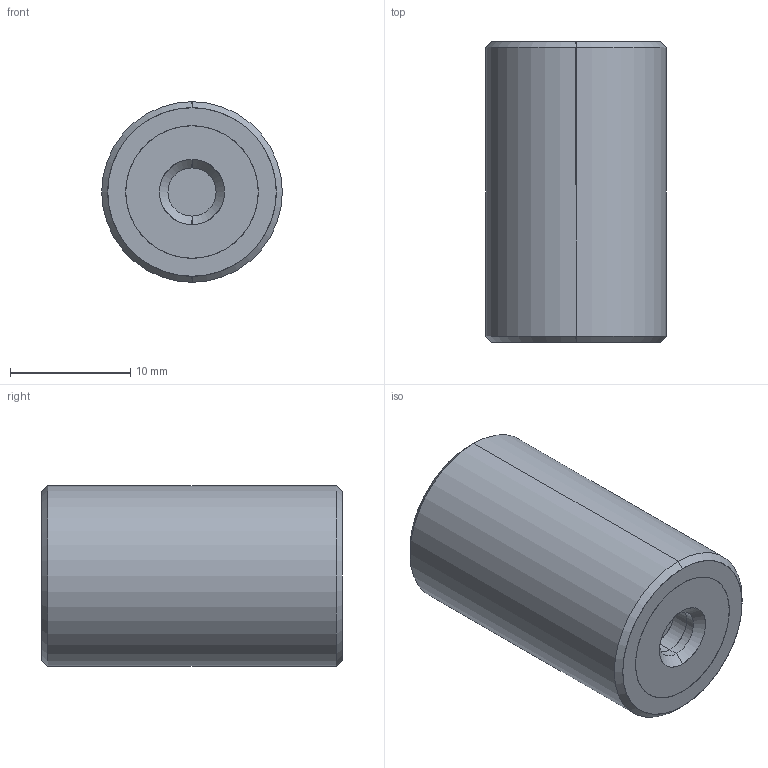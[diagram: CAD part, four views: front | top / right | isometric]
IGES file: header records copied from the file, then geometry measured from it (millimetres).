
Start section: SolidWorks IGES file using analytic representation for surfaces
Global section: file name: E:\WIXROYD 20180701\61080_v2\61080_v2_20180409_IGES\Default.igs; native system: SolidWorks 2017; preprocessor: SolidWorks 2017; author: liam_; date: 180716.214131; units: millimetre
Bounding box: 15 x 25 x 15 mm (x, y, z)
Surface area: 2106.9 mm2 (no closed solid volume)
Topology: 0 solids, 0 shells, 36 faces, 680 edges, 680 vertices
Faces by surface type: revolution 26, bspline 10
